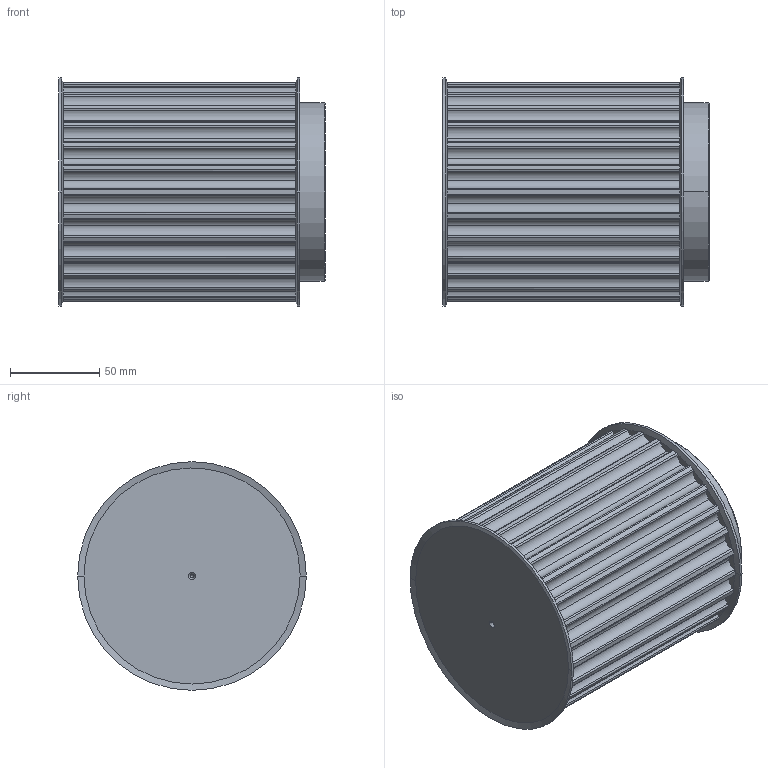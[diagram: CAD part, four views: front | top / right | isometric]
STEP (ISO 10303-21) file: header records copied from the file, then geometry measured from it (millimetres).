
FILE_DESCRIPTION(('STEP AP214'),'1');
FILE_NAME('28_-_14_m_115.stp','2018-09-28T09:59:03',('TraceParts'),('TraceParts S.A.'),'Spatial InterOp 3D',' ',' ');
FILE_SCHEMA(('automotive_design'));
Length unit declared in the file: millimetre
Products named in the file (1): 28_-_14_m_115
Bounding box: 148.94 x 128 x 128 mm (x, y, z)
Volume: 1555828 mm3; surface area: 100263.8 mm2
Topology: 1 solids, 1 shells, 227 faces, 658 edges, 432 vertices
Faces by surface type: cylinder 150, plane 59, cone 18
Entity records: 8221 total; most frequent: CARTESIAN_POINT 2098, DIRECTION 1372, ORIENTED_EDGE 1308, EDGE_CURVE 654, AXIS2_PLACEMENT_3D 602, VERTEX_POINT 432, CIRCLE 374, EDGE_LOOP 230
